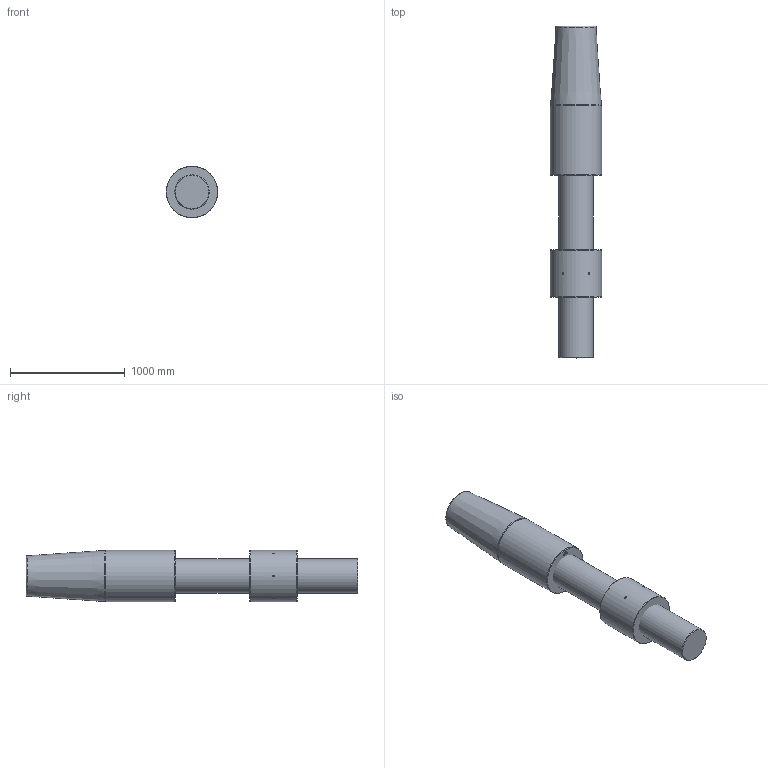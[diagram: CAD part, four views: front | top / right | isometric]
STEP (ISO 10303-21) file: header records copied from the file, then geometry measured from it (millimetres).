
FILE_DESCRIPTION(/* description */ (''),/* implementation_level */ '2;1');
FILE_NAME(/* name */ 'C:\Users\ranca\Desktop\CYM\ARRANGEMENT\CYM152 52 061 0.stp',/* time_stamp */ '2021-04-24T09:49:22+02:00',/* author */ ('ranca'),/* organization */ (''),/* preprocessor_version */ 'ST-DEVELOPER v16.13',/* originating_system */ 'Autodesk Inventor 2018',/* authorisation */ '');
FILE_SCHEMA (('AUTOMOTIVE_DESIGN { 1 0 10303 214 3 1 1 }'));
Length unit declared in the file: millimetre
Products named in the file (4): CYM152-52-061-0; CYM012-52-061-0_ROD; CYC152 52 065 0_CYL SOK_RH; CYM152-41-051-0
Assembly tree (3 placements, depth 2):
  CYM152-52-061-0
    CYM012-52-061-0_ROD
    CYC152 52 065 0_CYL SOK_RH
    CYM152-41-051-0
Bounding box: 450 x 2889 x 450 mm (x, y, z)
Volume: 387318627.5 mm3; surface area: 4879686.1 mm2
Topology: 3 solids, 3 shells, 513 faces, 1396 edges, 928 vertices
Faces by surface type: plane 256, bspline 235, cone 11, cylinder 9, torus 2
Full cylindrical faces by diameter (mm): 15 x6, 300 x1, 445 x1, 450 x1
Entity records: 17431 total; most frequent: CARTESIAN_POINT 6089, ORIENTED_EDGE 2734, DIRECTION 1478, EDGE_CURVE 1367, VERTEX_POINT 922, LINE 864, VECTOR 864, EDGE_LOOP 575
